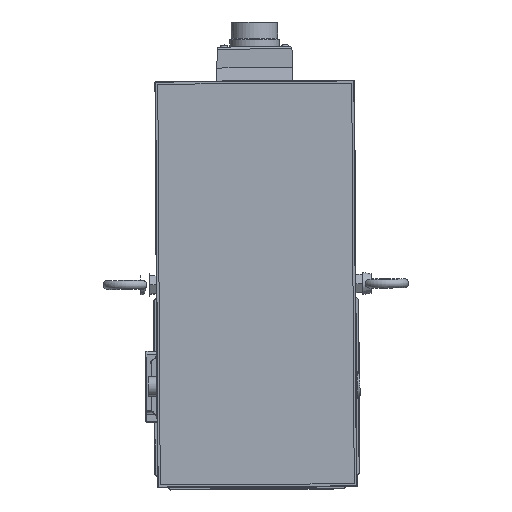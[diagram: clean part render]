
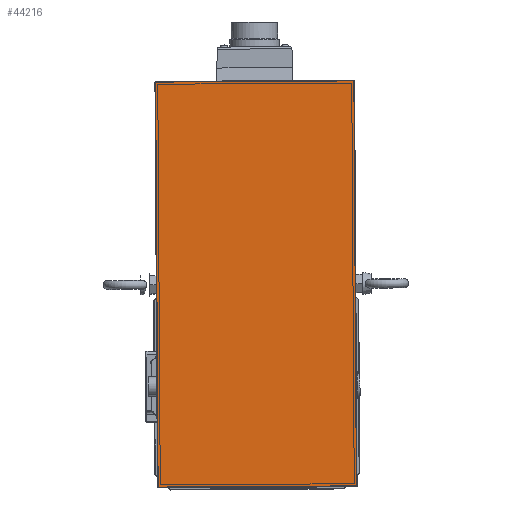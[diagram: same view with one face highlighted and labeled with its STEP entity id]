
A CAD part, top view. The second image highlights one B-rep face of the part: STEP entity #44216.
In plain terms, the highlighted planar face has unit normal (0, 0, 1).
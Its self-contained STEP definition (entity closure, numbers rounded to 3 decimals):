
#1674=PLANE('',#48159);
#3969=LINE('',#84356,#7047);
#3970=LINE('',#84358,#7048);
#3971=LINE('',#84360,#7049);
#3972=LINE('',#84361,#7050);
#7047=VECTOR('',#57992,10.);
#7048=VECTOR('',#57993,10.);
#7049=VECTOR('',#57994,10.);
#7050=VECTOR('',#57995,10.);
#10601=FACE_OUTER_BOUND('',#13285,.T.);
#13285=EDGE_LOOP('',(#35796,#35797,#35798,#35799));
#20017=VERTEX_POINT('',#84354);
#20018=VERTEX_POINT('',#84355);
#20019=VERTEX_POINT('',#84357);
#20020=VERTEX_POINT('',#84359);
#25553=EDGE_CURVE('',#20017,#20018,#3969,.T.);
#25554=EDGE_CURVE('',#20019,#20017,#3970,.T.);
#25555=EDGE_CURVE('',#20020,#20019,#3971,.T.);
#25556=EDGE_CURVE('',#20018,#20020,#3972,.T.);
#35796=ORIENTED_EDGE('',*,*,#25553,.F.);
#35797=ORIENTED_EDGE('',*,*,#25554,.F.);
#35798=ORIENTED_EDGE('',*,*,#25555,.F.);
#35799=ORIENTED_EDGE('',*,*,#25556,.F.);
#44216=ADVANCED_FACE('',(#10601),#1674,.T.);
#48159=AXIS2_PLACEMENT_3D('',#84353,#57990,#57991);
#57990=DIRECTION('center_axis',(0.,0.,
1.));
#57991=DIRECTION('ref_axis',(0.006,-1.,0.));
#57992=DIRECTION('',(-0.006,1.,0.));
#57993=DIRECTION('',(-1.,-0.006,0.));
#57994=DIRECTION('',(0.006,-1.,0.));
#57995=DIRECTION('',(1.,0.006,0.));
#84353=CARTESIAN_POINT('Origin',(68.928,-69.579,661.));
#84354=CARTESIAN_POINT('',(-69.56,-71.928,661.));
#84355=CARTESIAN_POINT('',(-71.314,214.067,661.));
#84356=CARTESIAN_POINT('',(-69.569,-70.428,661.));
#84357=CARTESIAN_POINT('',(70.437,-71.069,661.));
#84358=CARTESIAN_POINT('',(34.688,-71.289,661.));
#84359=CARTESIAN_POINT('',(68.683,214.925,661.));
#84360=CARTESIAN_POINT('',(70.428,-69.569,661.));
#84361=CARTESIAN_POINT('',(32.934,214.706,661.));
